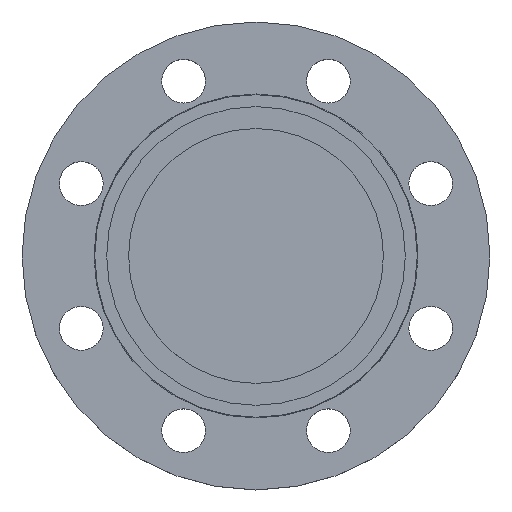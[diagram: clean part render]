
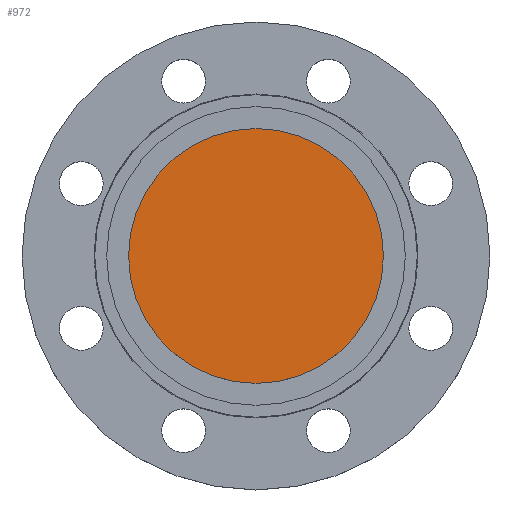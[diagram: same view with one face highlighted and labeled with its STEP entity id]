
A CAD part, top view. The second image highlights one B-rep face of the part: STEP entity #972.
In plain terms, the highlighted planar face has unit normal (0, 0, 1).
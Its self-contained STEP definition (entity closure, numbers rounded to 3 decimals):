
#28 = EDGE_LOOP ( 'NONE', ( #306, #580 ) ) ;
#135 = CARTESIAN_POINT ( 'NONE',  ( 64., 0., 0. ) ) ;
#143 = DIRECTION ( 'NONE',  ( -1., 0., 0. ) ) ;
#168 = VERTEX_POINT ( 'NONE', #524 ) ;
#248 = AXIS2_PLACEMENT_3D ( 'NONE', #692, #1007, #250 ) ;
#250 = DIRECTION ( 'NONE',  ( 1., 0., 0. ) ) ;
#272 = CARTESIAN_POINT ( 'NONE',  ( 0., 0., 0. ) ) ;
#306 = ORIENTED_EDGE ( 'NONE', *, *, #726, .F. ) ;
#329 = PLANE ( 'NONE',  #248 ) ;
#524 = CARTESIAN_POINT ( 'NONE',  ( -64., 0., 0. ) ) ;
#567 = AXIS2_PLACEMENT_3D ( 'NONE', #611, #920, #143 ) ;
#569 = CIRCLE ( 'NONE', #567, 64. ) ;
#580 = ORIENTED_EDGE ( 'NONE', *, *, #975, .F. ) ;
#586 = VERTEX_POINT ( 'NONE', #135 ) ;
#610 = CIRCLE ( 'NONE', #675, 64. ) ;
#611 = CARTESIAN_POINT ( 'NONE',  ( 0., 0., 0. ) ) ;
#631 = DIRECTION ( 'NONE',  ( 0., 0., -1. ) ) ;
#675 = AXIS2_PLACEMENT_3D ( 'NONE', #272, #631, #939 ) ;
#692 = CARTESIAN_POINT ( 'NONE',  ( 0., 0., 0. ) ) ;
#726 = EDGE_CURVE ( 'NONE', #168, #586, #610, .T. ) ;
#920 = DIRECTION ( 'NONE',  ( 0., 0., -1. ) ) ;
#939 = DIRECTION ( 'NONE',  ( -1., 0., 0. ) ) ;
#972 = ADVANCED_FACE ( 'NONE', ( #1077 ), #329, .T. ) ;
#975 = EDGE_CURVE ( 'NONE', #586, #168, #569, .T. ) ;
#1007 = DIRECTION ( 'NONE',  ( 0., 0., 1. ) ) ;
#1077 = FACE_OUTER_BOUND ( 'NONE', #28, .T. ) ;
